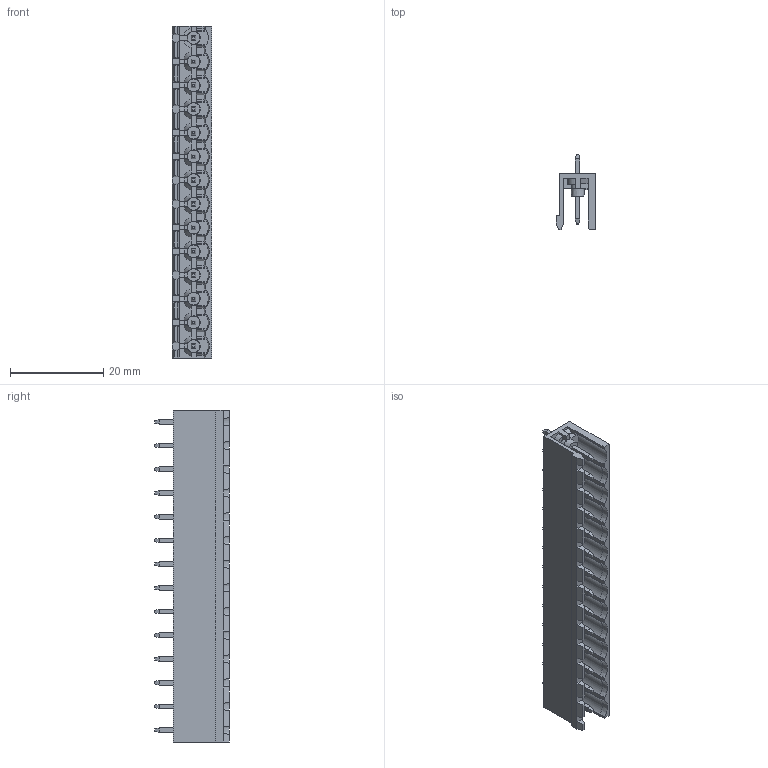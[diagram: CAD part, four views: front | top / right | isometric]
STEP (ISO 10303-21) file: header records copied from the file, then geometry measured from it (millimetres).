
FILE_DESCRIPTION (( 'STEP AP203' ), '1' );
FILE_NAME ('BR8MC1-14.STEP', '2020-03-18T03:02:58', ( '' ), ( '' ), 'SwSTEP 2.0', 'SolidWorks 2019', '' );
FILE_SCHEMA (( 'CONFIG_CONTROL_DESIGN' ));
Length unit declared in the file: millimetre
Products named in the file (1): BR8MC1-14
Bounding box: 8.5 x 16.03 x 71.12 mm (x, y, z)
Volume: 2694.3 mm3; surface area: 5977.4 mm2
Topology: 1 solids, 1 shells, 1181 faces, 3078 edges, 1899 vertices
Faces by surface type: plane 1015, cylinder 71, cone 67, sphere 28
Entity records: 35108 total; most frequent: CARTESIAN_POINT 6698, ORIENTED_EDGE 6044, DIRECTION 5533, EDGE_CURVE 3022, VECTOR 2581, LINE 2581, VERTEX_POINT 1871, AXIS2_PLACEMENT_3D 1476
